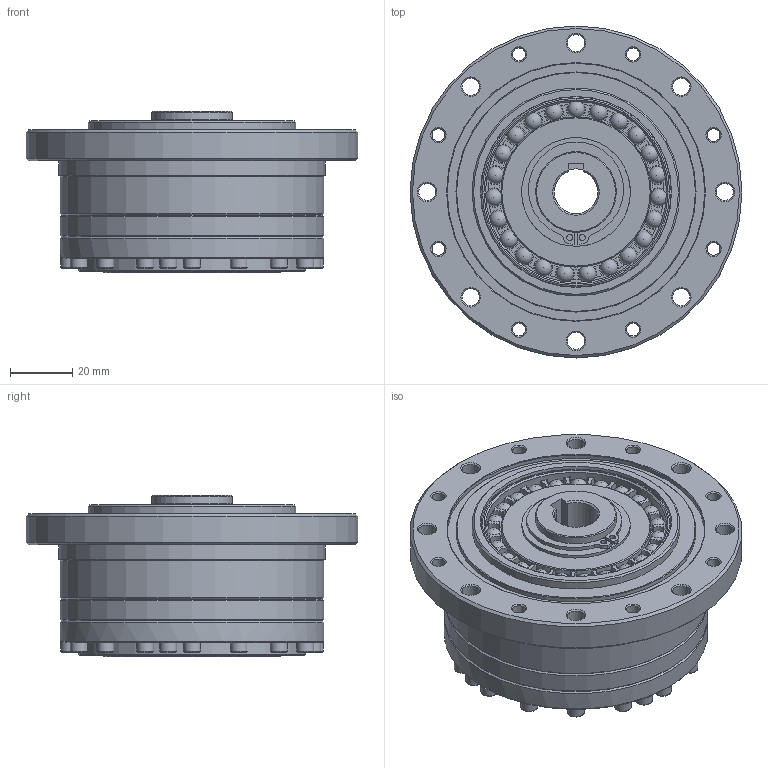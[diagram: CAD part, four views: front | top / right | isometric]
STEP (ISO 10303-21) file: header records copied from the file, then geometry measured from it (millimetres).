
FILE_DESCRIPTION(/* description */ (''),/* implementation_level */ '2;1');
FILE_NAME(/* name */ 'S:\TB00F\研發課二組\機密級\1.\X2\8A2D8A08\X0\\01-DT\DT圖面-y\2.組合圖\\X2\6A21578B\X0\\WUT-S-XX-PO\WUT-S-25-PO模型\AK0002F1-修改.stp',/* time_stamp */ '2018-12-07T09:08:13+08:00',/* author */ ('yin210'),/* organization */ (''),/* preprocessor_version */ 'ST-DEVELOPER v15.2',/* originating_system */ 'Autodesk Inventor 2014',/* authorisation */ '');
FILE_SCHEMA (('AUTOMOTIVE_DESIGN { 1 0 10303 214 3 1 1 }'));
Length unit declared in the file: centimetre
Products named in the file (1): AK0002F1-修改
Bounding box: 107 x 107 x 52 mm (x, y, z)
Volume: 271014.3 mm3; surface area: 46414.1 mm2
Topology: 1 solids, 1 shells, 617 faces, 1514 edges, 939 vertices
Faces by surface type: plane 254, cylinder 179, cone 92, torus 69, sphere 23
Full cylindrical faces by diameter (mm): 2 x2, 2.5 x4, 4.134 x8, 4.917 x8, 5.5 x28, 6.647 x8, 15 x1, 20 x2, 24.9 x1, 26 x1, 35 x1, 43 x1, 48.385 x1, 52.6 x1, 55.2 x1, 58.32 x1, 61.34 x1, 67 x1, 73 x1, 77.4 x1, 83 x1, 85 x3, 86 x1, 107 x1
Entity records: 16462 total; most frequent: DIRECTION 2980, CARTESIAN_POINT 2854, ORIENTED_EDGE 2440, AXIS2_PLACEMENT_3D 1312, EDGE_CURVE 1174, EDGE_LOOP 906, VERTEX_POINT 814, CIRCLE 694
